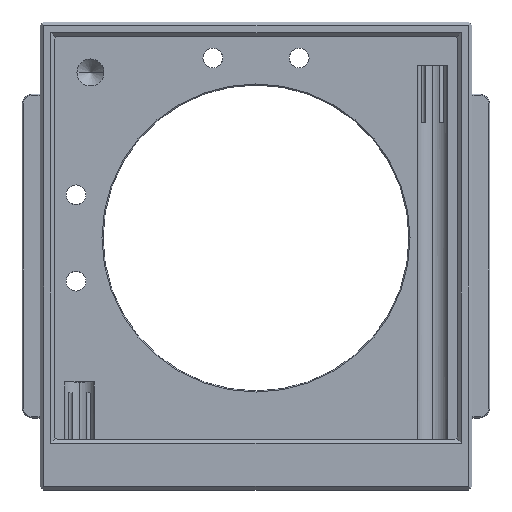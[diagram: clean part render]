
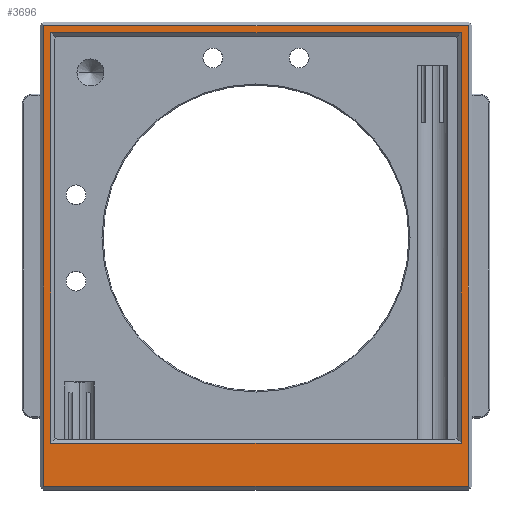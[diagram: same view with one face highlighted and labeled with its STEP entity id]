
A CAD part, top view. The second image highlights one B-rep face of the part: STEP entity #3696.
In plain terms, the highlighted planar face has unit normal (0, 0, 1).
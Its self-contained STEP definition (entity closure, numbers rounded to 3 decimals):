
#35 = VECTOR ( 'NONE', #3916, 1000. ) ;
#90 = LINE ( 'NONE', #1826, #4335 ) ;
#172 = VERTEX_POINT ( 'NONE', #639 ) ;
#289 = DIRECTION ( 'NONE',  ( 0., 0., 1. ) ) ;
#452 = CARTESIAN_POINT ( 'NONE',  ( -56., -52., 15. ) ) ;
#582 = EDGE_CURVE ( 'NONE', #2945, #172, #5019, .T. ) ;
#607 = CARTESIAN_POINT ( 'NONE',  ( -59., -65., 15. ) ) ;
#639 = CARTESIAN_POINT ( 'NONE',  ( -59., -64., 15. ) ) ;
#674 = EDGE_CURVE ( 'NONE', #3813, #4922, #1448, .T. ) ;
#713 = CARTESIAN_POINT ( 'NONE',  ( 57., 62., 15. ) ) ;
#761 = LINE ( 'NONE', #3384, #4095 ) ;
#832 = CARTESIAN_POINT ( 'NONE',  ( 57., -52., 15. ) ) ;
#955 = DIRECTION ( 'NONE',  ( -1., 0., 0. ) ) ;
#978 = VERTEX_POINT ( 'NONE', #4866 ) ;
#1150 = DIRECTION ( 'NONE',  ( 1., 0., 0. ) ) ;
#1158 = DIRECTION ( 'NONE',  ( 0., -1., 0. ) ) ;
#1287 = CARTESIAN_POINT ( 'NONE',  ( 60., -64., 15. ) ) ;
#1387 = ORIENTED_EDGE ( 'NONE', *, *, #4613, .T. ) ;
#1448 = LINE ( 'NONE', #2536, #2596 ) ;
#1529 = VECTOR ( 'NONE', #4537, 1000. ) ;
#1647 = CARTESIAN_POINT ( 'NONE',  ( -59., 64., 15. ) ) ;
#1798 = LINE ( 'NONE', #2250, #4923 ) ;
#1826 = CARTESIAN_POINT ( 'NONE',  ( -57., 61., 15. ) ) ;
#1840 = LINE ( 'NONE', #1287, #35 ) ;
#1918 = VERTEX_POINT ( 'NONE', #5426 ) ;
#2001 = PLANE ( 'NONE',  #5271 ) ;
#2054 = CARTESIAN_POINT ( 'NONE',  ( 0., 0., 15. ) ) ;
#2202 = ORIENTED_EDGE ( 'NONE', *, *, #674, .T. ) ;
#2218 = DIRECTION ( 'NONE',  ( -1., 0., 0. ) ) ;
#2250 = CARTESIAN_POINT ( 'NONE',  ( -60., 64., 15. ) ) ;
#2291 = EDGE_LOOP ( 'NONE', ( #2900, #1387, #3172, #5508 ) ) ;
#2421 = LINE ( 'NONE', #2789, #1529 ) ;
#2474 = DIRECTION ( 'NONE',  ( 1., 0., 0. ) ) ;
#2536 = CARTESIAN_POINT ( 'NONE',  ( 57., -51., 15. ) ) ;
#2596 = VECTOR ( 'NONE', #1158, 1000. ) ;
#2789 = CARTESIAN_POINT ( 'NONE',  ( 59., 65., 15. ) ) ;
#2900 = ORIENTED_EDGE ( 'NONE', *, *, #582, .T. ) ;
#2945 = VERTEX_POINT ( 'NONE', #1647 ) ;
#2948 = EDGE_CURVE ( 'NONE', #4254, #3813, #761, .T. ) ;
#3096 = VECTOR ( 'NONE', #955, 1000. ) ;
#3172 = ORIENTED_EDGE ( 'NONE', *, *, #3599, .T. ) ;
#3384 = CARTESIAN_POINT ( 'NONE',  ( 56., 62., 15. ) ) ;
#3599 = EDGE_CURVE ( 'NONE', #1918, #978, #2421, .T. ) ;
#3696 = ADVANCED_FACE ( 'NONE', ( #5133, #5162 ), #2001, .T. ) ;
#3785 = VECTOR ( 'NONE', #4935, 1000. ) ;
#3813 = VERTEX_POINT ( 'NONE', #713 ) ;
#3854 = EDGE_CURVE ( 'NONE', #5157, #4254, #90, .T. ) ;
#3916 = DIRECTION ( 'NONE',  ( 1., 0., 0. ) ) ;
#3960 = DIRECTION ( 'NONE',  ( 0., 1., 0. ) ) ;
#4095 = VECTOR ( 'NONE', #1150, 1000. ) ;
#4162 = EDGE_CURVE ( 'NONE', #4922, #5157, #5328, .T. ) ;
#4254 = VERTEX_POINT ( 'NONE', #4547 ) ;
#4335 = VECTOR ( 'NONE', #3960, 1000. ) ;
#4417 = ORIENTED_EDGE ( 'NONE', *, *, #3854, .T. ) ;
#4537 = DIRECTION ( 'NONE',  ( 0., 1., 0. ) ) ;
#4547 = CARTESIAN_POINT ( 'NONE',  ( -57., 62., 15. ) ) ;
#4613 = EDGE_CURVE ( 'NONE', #172, #1918, #1840, .T. ) ;
#4629 = ORIENTED_EDGE ( 'NONE', *, *, #2948, .T. ) ;
#4658 = EDGE_LOOP ( 'NONE', ( #4417, #4629, #2202, #5384 ) ) ;
#4866 = CARTESIAN_POINT ( 'NONE',  ( 59., 64., 15. ) ) ;
#4922 = VERTEX_POINT ( 'NONE', #832 ) ;
#4923 = VECTOR ( 'NONE', #2218, 1000. ) ;
#4935 = DIRECTION ( 'NONE',  ( 0., -1., 0. ) ) ;
#4964 = EDGE_CURVE ( 'NONE', #978, #2945, #1798, .T. ) ;
#5019 = LINE ( 'NONE', #607, #3785 ) ;
#5133 = FACE_BOUND ( 'NONE', #4658, .T. ) ;
#5153 = CARTESIAN_POINT ( 'NONE',  ( -57., -52., 15. ) ) ;
#5157 = VERTEX_POINT ( 'NONE', #5153 ) ;
#5162 = FACE_OUTER_BOUND ( 'NONE', #2291, .T. ) ;
#5271 = AXIS2_PLACEMENT_3D ( 'NONE', #2054, #289, #2474 ) ;
#5328 = LINE ( 'NONE', #452, #3096 ) ;
#5384 = ORIENTED_EDGE ( 'NONE', *, *, #4162, .T. ) ;
#5426 = CARTESIAN_POINT ( 'NONE',  ( 59., -64., 15. ) ) ;
#5508 = ORIENTED_EDGE ( 'NONE', *, *, #4964, .T. ) ;
